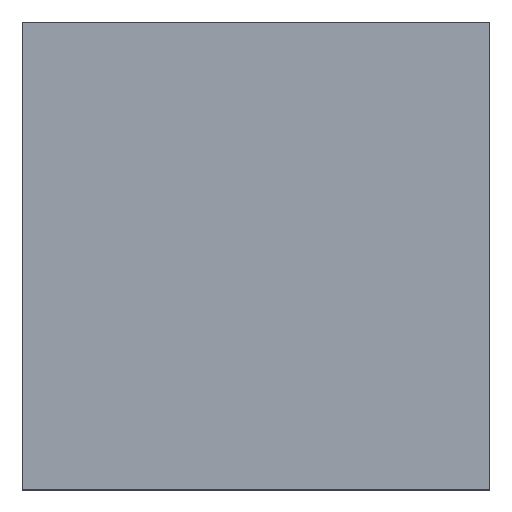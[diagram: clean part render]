
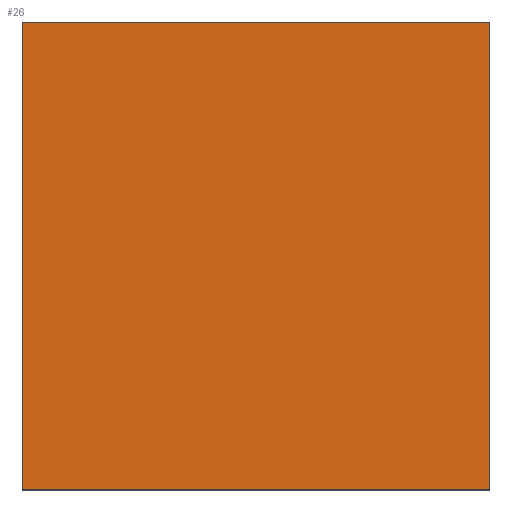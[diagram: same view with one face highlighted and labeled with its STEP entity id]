
A CAD part, top view. The second image highlights one B-rep face of the part: STEP entity #26.
In plain terms, the highlighted planar face has unit normal (0, 0, 1).
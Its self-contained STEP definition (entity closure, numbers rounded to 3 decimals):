
#26 = ADVANCED_FACE ( 'NONE', ( #3028 ), #9374, .F. ) ;
#117 = VECTOR ( 'NONE', #2644, 1000. ) ;
#716 = VERTEX_POINT ( 'NONE', #6794 ) ;
#843 = EDGE_CURVE ( 'NONE', #8080, #6454, #16588, .T. ) ;
#849 = EDGE_CURVE ( 'NONE', #19995, #8080, #10129, .T. ) ;
#2644 = DIRECTION ( 'NONE',  ( 0., 1., 0. ) ) ;
#2679 = VECTOR ( 'NONE', #12007, 1000. ) ;
#3028 = FACE_OUTER_BOUND ( 'NONE', #18236, .T. ) ;
#3332 = CARTESIAN_POINT ( 'NONE',  ( -10., 10., 0.9 ) ) ;
#3395 = DIRECTION ( 'NONE',  ( 0., -1., 0. ) ) ;
#4169 = ORIENTED_EDGE ( 'NONE', *, *, #16434, .T. ) ;
#6037 = CARTESIAN_POINT ( 'NONE',  ( -10., -10., 0.9 ) ) ;
#6174 = LINE ( 'NONE', #16069, #12887 ) ;
#6454 = VERTEX_POINT ( 'NONE', #3332 ) ;
#6794 = CARTESIAN_POINT ( 'NONE',  ( -10., -10., 0.9 ) ) ;
#6853 = ORIENTED_EDGE ( 'NONE', *, *, #843, .T. ) ;
#7319 = AXIS2_PLACEMENT_3D ( 'NONE', #10932, #16873, #18419 ) ;
#7899 = EDGE_CURVE ( 'NONE', #716, #19995, #6174, .T. ) ;
#8080 = VERTEX_POINT ( 'NONE', #11891 ) ;
#8886 = CARTESIAN_POINT ( 'NONE',  ( 10., -10., 0.9 ) ) ;
#9374 = PLANE ( 'NONE',  #7319 ) ;
#10129 = LINE ( 'NONE', #8886, #117 ) ;
#10932 = CARTESIAN_POINT ( 'NONE',  ( 0., 0., 0.9 ) ) ;
#11891 = CARTESIAN_POINT ( 'NONE',  ( 10., 10., 0.9 ) ) ;
#12007 = DIRECTION ( 'NONE',  ( -1., 0., 0. ) ) ;
#12568 = VECTOR ( 'NONE', #3395, 1000. ) ;
#12887 = VECTOR ( 'NONE', #17330, 1000. ) ;
#13846 = ORIENTED_EDGE ( 'NONE', *, *, #7899, .T. ) ;
#14149 = LINE ( 'NONE', #6037, #12568 ) ;
#15228 = CARTESIAN_POINT ( 'NONE',  ( -10., 10., 0.9 ) ) ;
#16069 = CARTESIAN_POINT ( 'NONE',  ( -10., -10., 0.9 ) ) ;
#16434 = EDGE_CURVE ( 'NONE', #6454, #716, #14149, .T. ) ;
#16588 = LINE ( 'NONE', #15228, #2679 ) ;
#16873 = DIRECTION ( 'NONE',  ( 0., 0., -1. ) ) ;
#17037 = CARTESIAN_POINT ( 'NONE',  ( 10., -10., 0.9 ) ) ;
#17173 = ORIENTED_EDGE ( 'NONE', *, *, #849, .T. ) ;
#17330 = DIRECTION ( 'NONE',  ( 1., 0., 0. ) ) ;
#18236 = EDGE_LOOP ( 'NONE', ( #17173, #6853, #4169, #13846 ) ) ;
#18419 = DIRECTION ( 'NONE',  ( -1., 0., 0. ) ) ;
#19995 = VERTEX_POINT ( 'NONE', #17037 ) ;
